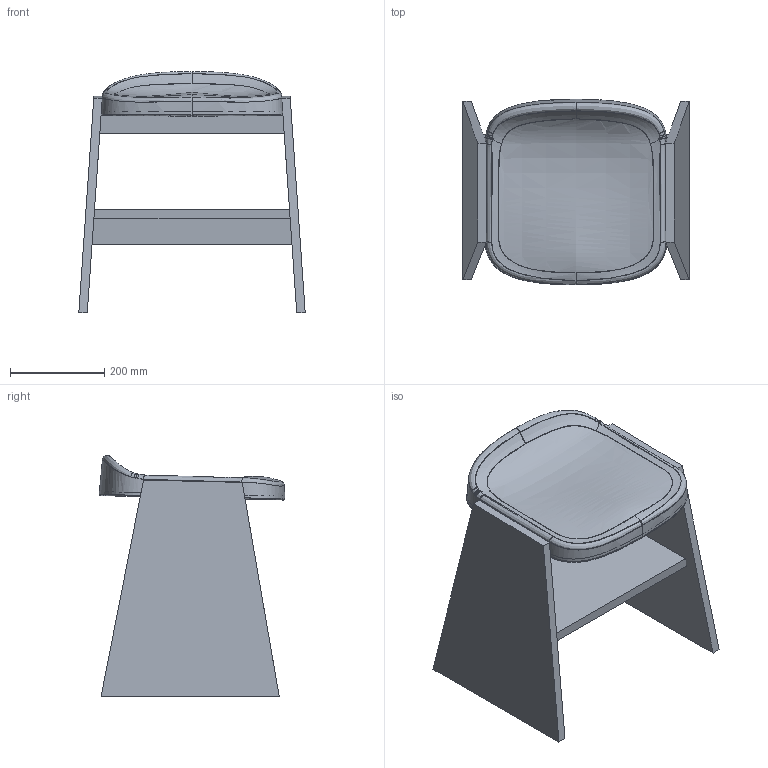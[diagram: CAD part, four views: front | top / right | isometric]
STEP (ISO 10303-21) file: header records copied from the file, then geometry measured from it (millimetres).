
FILE_DESCRIPTION(/* description */ (''),/* implementation_level */ '2;1');
FILE_NAME(/* name */ 'MC19_F~1',/* time_stamp */ '2021-04-14T13:48:41+02:00',/* author */ (''),/* organization */ (''),/* preprocessor_version */ 'ST-DEVELOPER v16.5',/* originating_system */ '',/* authorisation */ '');
FILE_SCHEMA (('AUTOMOTIVE_DESIGN'));
Length unit declared in the file: millimetre
Products named in the file (1): Document
Bounding box: 481.18 x 394.73 x 512.27 mm (x, y, z)
Surface area: 1357973.1 mm2 (no closed solid volume)
Topology: 0 solids, 97 shells, 97 faces, 446 edges, 446 vertices
Faces by surface type: bspline 97
Entity records: 51477 total; most frequent: CARTESIAN_POINT 47478, B_SPLINE_CURVE_WITH_KNOTS 658, ORIENTED_EDGE 446, PCURVE 446, DEFINITIONAL_REPRESENTATION 446, SURFACE_CURVE 446, EDGE_CURVE 446, VERTEX_POINT 446
